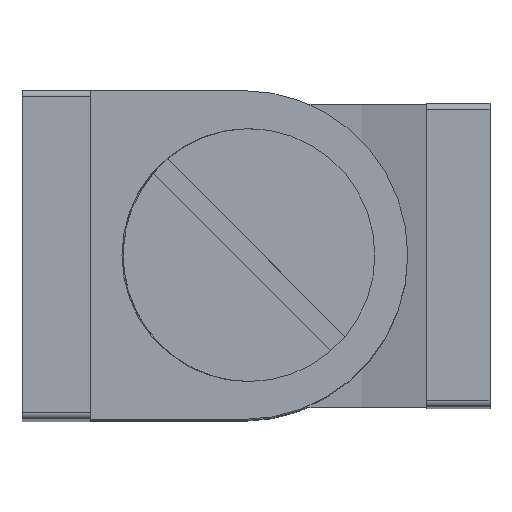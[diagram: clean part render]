
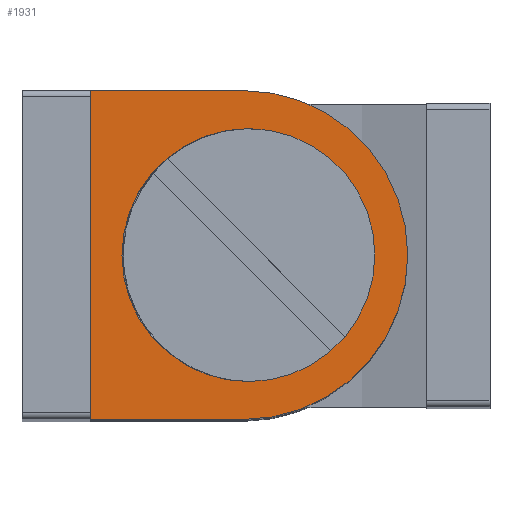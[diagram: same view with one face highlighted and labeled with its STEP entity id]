
A CAD part, top view. The second image highlights one B-rep face of the part: STEP entity #1931.
In plain terms, the highlighted planar face has unit normal (0, 0, 1).
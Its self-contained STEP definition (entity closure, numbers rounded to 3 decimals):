
#101 = EDGE_CURVE ( 'NONE', #1006, #1312, #2098, .T. ) ;
#156 = CARTESIAN_POINT ( 'NONE',  ( 3.95, 0., 49.5 ) ) ;
#175 = DIRECTION ( 'NONE',  ( 0., 0., -1. ) ) ;
#200 = PLANE ( 'NONE',  #1611 ) ;
#202 = EDGE_CURVE ( 'NONE', #403, #1006, #1233, .T. ) ;
#240 = VERTEX_POINT ( 'NONE', #2082 ) ;
#246 = AXIS2_PLACEMENT_3D ( 'NONE', #847, #175, #1023 ) ;
#250 = DIRECTION ( 'NONE',  ( 0., 0., 1. ) ) ;
#259 = CIRCLE ( 'NONE', #2197, 5. ) ;
#268 = DIRECTION ( 'NONE',  ( 0., 1., 0. ) ) ;
#304 = LINE ( 'NONE', #1673, #1073 ) ;
#397 = ORIENTED_EDGE ( 'NONE', *, *, #1328, .F. ) ;
#403 = VERTEX_POINT ( 'NONE', #1781 ) ;
#413 = LINE ( 'NONE', #1627, #1400 ) ;
#417 = CIRCLE ( 'NONE', #1469, 5. ) ;
#469 = CARTESIAN_POINT ( 'NONE',  ( 8.95, 0., 49.5 ) ) ;
#472 = ORIENTED_EDGE ( 'NONE', *, *, #101, .F. ) ;
#525 = CARTESIAN_POINT ( 'NONE',  ( 2.7, 6.5, 49.5 ) ) ;
#545 = CARTESIAN_POINT ( 'NONE',  ( 7.412, -6.5, 49.5 ) ) ;
#612 = DIRECTION ( 'NONE',  ( 0., 0., 1. ) ) ;
#657 = CARTESIAN_POINT ( 'NONE',  ( 2.7, -6.5, 49.5 ) ) ;
#704 = EDGE_CURVE ( 'NONE', #1050, #240, #417, .T. ) ;
#742 = CARTESIAN_POINT ( 'NONE',  ( 10.45, 0., 49.5 ) ) ;
#796 = ORIENTED_EDGE ( 'NONE', *, *, #202, .F. ) ;
#847 = CARTESIAN_POINT ( 'NONE',  ( 8.75, 0., 49.5 ) ) ;
#1006 = VERTEX_POINT ( 'NONE', #1892 ) ;
#1023 = DIRECTION ( 'NONE',  ( 0., -1., 0. ) ) ;
#1050 = VERTEX_POINT ( 'NONE', #156 ) ;
#1073 = VECTOR ( 'NONE', #1131, 1000. ) ;
#1087 = VERTEX_POINT ( 'NONE', #525 ) ;
#1115 = FACE_BOUND ( 'NONE', #1860, .T. ) ;
#1130 = CARTESIAN_POINT ( 'NONE',  ( 8.95, 0., 49.5 ) ) ;
#1131 = DIRECTION ( 'NONE',  ( 1., 0., 0. ) ) ;
#1161 = ORIENTED_EDGE ( 'NONE', *, *, #1234, .F. ) ;
#1165 = DIRECTION ( 'NONE',  ( 0., 0., 1. ) ) ;
#1233 = CIRCLE ( 'NONE', #246, 6.5 ) ;
#1234 = EDGE_CURVE ( 'NONE', #1312, #1087, #413, .T. ) ;
#1280 = EDGE_LOOP ( 'NONE', ( #796, #397, #1161, #472 ) ) ;
#1297 = DIRECTION ( 'NONE',  ( 1., 0., 0. ) ) ;
#1312 = VERTEX_POINT ( 'NONE', #657 ) ;
#1328 = EDGE_CURVE ( 'NONE', #1087, #403, #304, .T. ) ;
#1361 = EDGE_CURVE ( 'NONE', #240, #1050, #259, .T. ) ;
#1400 = VECTOR ( 'NONE', #268, 1000. ) ;
#1469 = AXIS2_PLACEMENT_3D ( 'NONE', #1130, #612, #1297 ) ;
#1611 = AXIS2_PLACEMENT_3D ( 'NONE', #742, #250, #1970 ) ;
#1622 = FACE_OUTER_BOUND ( 'NONE', #1280, .T. ) ;
#1627 = CARTESIAN_POINT ( 'NONE',  ( 2.7, 0., 49.5 ) ) ;
#1673 = CARTESIAN_POINT ( 'NONE',  ( 7.412, 6.5, 49.5 ) ) ;
#1781 = CARTESIAN_POINT ( 'NONE',  ( 8.75, 6.5, 49.5 ) ) ;
#1852 = DIRECTION ( 'NONE',  ( 1., 0., 0. ) ) ;
#1860 = EDGE_LOOP ( 'NONE', ( #1956, #1957 ) ) ;
#1892 = CARTESIAN_POINT ( 'NONE',  ( 8.75, -6.5, 49.5 ) ) ;
#1927 = DIRECTION ( 'NONE',  ( -1., 0., 0. ) ) ;
#1931 = ADVANCED_FACE ( 'NONE', ( #1115, #1622 ), #200, .T. ) ;
#1956 = ORIENTED_EDGE ( 'NONE', *, *, #704, .F. ) ;
#1957 = ORIENTED_EDGE ( 'NONE', *, *, #1361, .F. ) ;
#1970 = DIRECTION ( 'NONE',  ( 1., 0., 0. ) ) ;
#2082 = CARTESIAN_POINT ( 'NONE',  ( 13.95, 0., 49.5 ) ) ;
#2098 = LINE ( 'NONE', #545, #2177 ) ;
#2177 = VECTOR ( 'NONE', #1927, 1000. ) ;
#2197 = AXIS2_PLACEMENT_3D ( 'NONE', #469, #1165, #1852 ) ;
